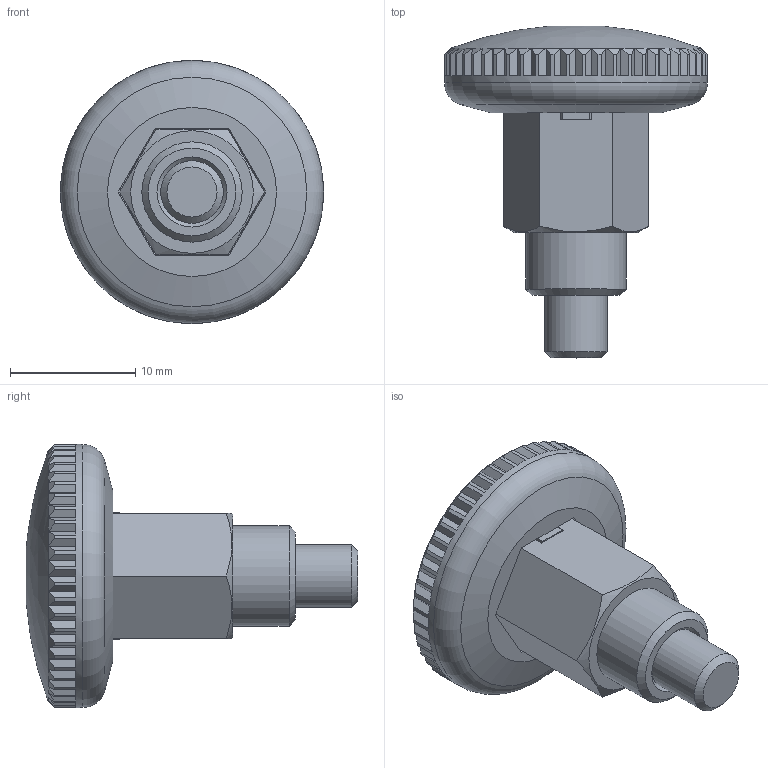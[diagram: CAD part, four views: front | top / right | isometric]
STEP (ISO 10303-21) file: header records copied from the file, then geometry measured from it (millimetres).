
FILE_DESCRIPTION( ( 'STEP AP203' ), '1' );
FILE_NAME( 'C:/Temp/Ganter_Step_05_03_2020/data/3_1/gn_822_1/gn822_1_ni_rt/gn_822_1_c_ni/Stainless Steel-Mini indexing plunger GN 822.1-5-C-NI-RT (deactivated).stp', '2020-03-12T09:23:31', ( 'License CC BY-ND 4.0' ), ( 'CADENAS' ), ' ', 'PARTsolutions', ' ' );
FILE_SCHEMA( ( 'CONFIG_CONTROL_DESIGN' ) );
Length unit declared in the file: millimetre
Products named in the file (3): Stainless Steel-Mini indexing plunger GN 822.1-5-C-NI-RT (deactivated); _Stainless Steel-Mini indexing plunger GN 822.1-5-C-NI-RT (deactivated)-1; _Stainless Steel-Mini indexing plunger GN 822.1-5-C-NI-RT (deactivated)-2
Assembly tree (2 placements, depth 2):
  Stainless Steel-Mini indexing plunger GN 822.1-5-C-NI-RT (deactivated)
    _Stainless Steel-Mini indexing plunger GN 822.1-5-C-NI-RT (deactivated)-1
    _Stainless Steel-Mini indexing plunger GN 822.1-5-C-NI-RT (deactivated)-2
Bounding box: 21 x 26.5 x 21 mm (x, y, z)
Volume: 2973.2 mm3; surface area: 2579.7 mm2
Topology: 2 solids, 2 shells, 224 faces, 635 edges, 418 vertices
Faces by surface type: plane 197, cone 18, cylinder 7, bspline 1, torus 1
Full cylindrical faces by diameter (mm): 3 x1, 5 x2, 8 x1, 21 x1
Entity records: 7485 total; most frequent: CARTESIAN_POINT 1804, ORIENTED_EDGE 1232, DIRECTION 1066, EDGE_CURVE 616, VERTEX_POINT 412, AXIS2_PLACEMENT_3D 366, LINE 334, VECTOR 334
